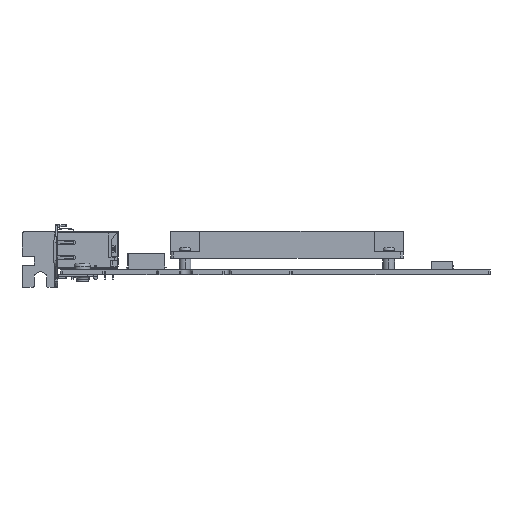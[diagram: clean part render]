
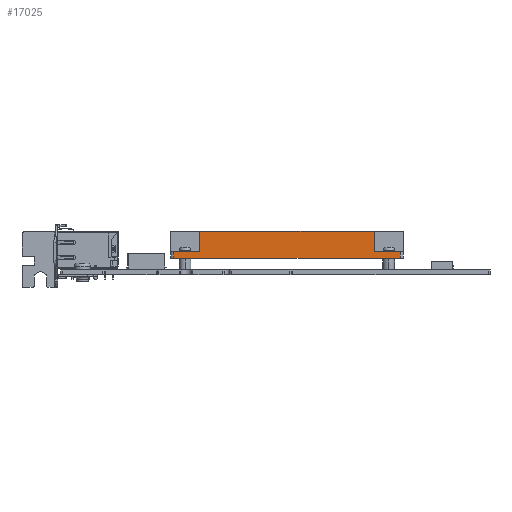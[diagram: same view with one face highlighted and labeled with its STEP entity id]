
A CAD part, front view. The second image highlights one B-rep face of the part: STEP entity #17025.
In plain terms, the highlighted planar face has unit normal (0, -1, 0).
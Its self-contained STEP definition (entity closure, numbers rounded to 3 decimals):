
#4718=DIRECTION('',(0.,0.,1.));
#4719=VECTOR('',#4718,2.3);
#4720=CARTESIAN_POINT('',(270.724,18.269,5.6));
#4721=LINE('',#4720,#4719);
#4726=DIRECTION('',(1.,0.,0.));
#4727=VECTOR('',#4726,9.);
#4728=CARTESIAN_POINT('',(192.724,18.269,7.9));
#4729=LINE('',#4728,#4727);
#4730=DIRECTION('',(0.,0.,1.));
#4731=VECTOR('',#4730,7.);
#4732=CARTESIAN_POINT('',(201.724,18.269,7.9));
#4733=LINE('',#4732,#4731);
#4734=DIRECTION('',(1.,0.,0.));
#4735=VECTOR('',#4734,60.);
#4736=CARTESIAN_POINT('',(201.724,18.269,14.9));
#4737=LINE('',#4736,#4735);
#4738=DIRECTION('',(0.,0.,-1.));
#4739=VECTOR('',#4738,7.);
#4740=CARTESIAN_POINT('',(261.724,18.269,14.9));
#4741=LINE('',#4740,#4739);
#4742=DIRECTION('',(1.,0.,0.));
#4743=VECTOR('',#4742,9.);
#4744=CARTESIAN_POINT('',(261.724,18.269,7.9));
#4745=LINE('',#4744,#4743);
#4746=DIRECTION('',(-1.,0.,0.));
#4747=VECTOR('',#4746,78.);
#4748=CARTESIAN_POINT('',(270.724,18.269,5.6));
#4749=LINE('',#4748,#4747);
#4750=DIRECTION('',(0.,0.,-1.));
#4751=VECTOR('',#4750,2.3);
#4752=CARTESIAN_POINT('',(192.724,18.269,7.9));
#4753=LINE('',#4752,#4751);
#9921=CARTESIAN_POINT('',(192.724,18.269,7.9));
#9922=CARTESIAN_POINT('',(192.724,18.269,5.6));
#9923=VERTEX_POINT('',#9921);
#9924=VERTEX_POINT('',#9922);
#9925=CARTESIAN_POINT('',(201.724,18.269,7.9));
#9926=VERTEX_POINT('',#9925);
#9927=CARTESIAN_POINT('',(201.724,18.269,14.9));
#9928=VERTEX_POINT('',#9927);
#9929=CARTESIAN_POINT('',(261.724,18.269,14.9));
#9930=VERTEX_POINT('',#9929);
#9931=CARTESIAN_POINT('',(261.724,18.269,7.9));
#9932=VERTEX_POINT('',#9931);
#9933=CARTESIAN_POINT('',(270.724,18.269,7.9));
#9934=VERTEX_POINT('',#9933);
#9935=CARTESIAN_POINT('',(270.724,18.269,5.6));
#9936=VERTEX_POINT('',#9935);
#17004=CARTESIAN_POINT('',(231.724,18.269,6.75));
#17005=DIRECTION('',(0.,-1.,0.));
#17006=DIRECTION('',(1.,0.,0.));
#17007=AXIS2_PLACEMENT_3D('',#17004,#17005,#17006);
#17008=PLANE('',#17007);
#17010=ORIENTED_EDGE('',*,*,#17009,.F.);
#17012=ORIENTED_EDGE('',*,*,#17011,.T.);
#17014=ORIENTED_EDGE('',*,*,#17013,.T.);
#17016=ORIENTED_EDGE('',*,*,#17015,.T.);
#17018=ORIENTED_EDGE('',*,*,#17017,.T.);
#17020=ORIENTED_EDGE('',*,*,#17019,.T.);
#17021=ORIENTED_EDGE('',*,*,#16996,.F.);
#17022=ORIENTED_EDGE('',*,*,#16711,.T.);
#17023=EDGE_LOOP('',(#17010,#17012,#17014,#17016,#17018,#17020,#17021,#17022));
#17024=FACE_OUTER_BOUND('',#17023,.F.);
#17025=ADVANCED_FACE('',(#17024),#17008,.T.);
#16711=EDGE_CURVE('',#9936,#9924,#4749,.T.);
#16996=EDGE_CURVE('',#9936,#9934,#4721,.T.);
#17009=EDGE_CURVE('',#9923,#9924,#4753,.T.);
#17011=EDGE_CURVE('',#9923,#9926,#4729,.T.);
#17013=EDGE_CURVE('',#9926,#9928,#4733,.T.);
#17015=EDGE_CURVE('',#9928,#9930,#4737,.T.);
#17017=EDGE_CURVE('',#9930,#9932,#4741,.T.);
#17019=EDGE_CURVE('',#9932,#9934,#4745,.T.);
